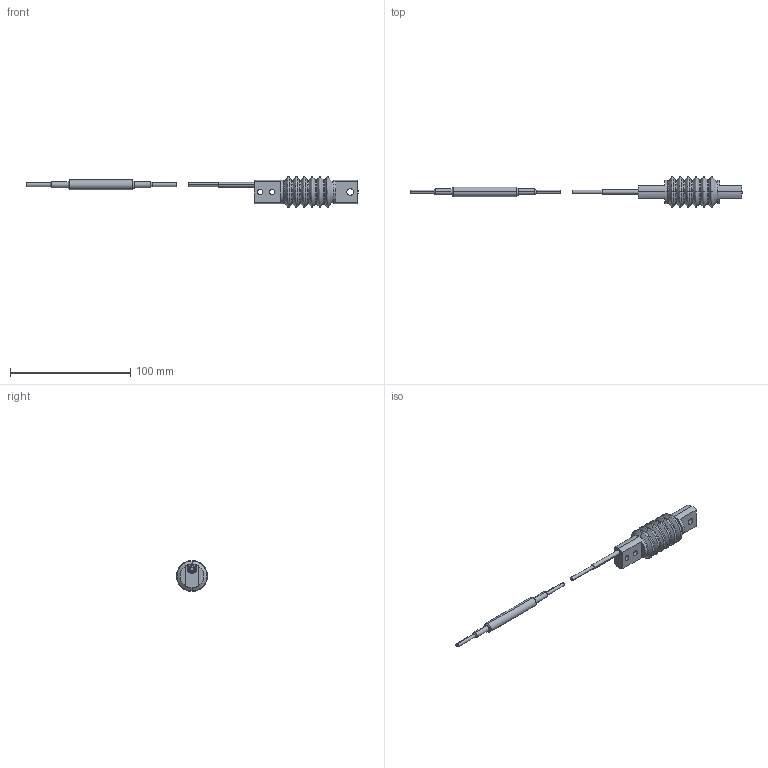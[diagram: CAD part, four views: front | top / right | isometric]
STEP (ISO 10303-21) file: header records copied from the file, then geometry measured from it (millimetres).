
FILE_DESCRIPTION(('STEP AP203'),'1');
FILE_NAME('C:/TPO v2/SharedFS/Outgoing/burster_8511-5020-v010_75tav5x2jp0diktj15eyofk8z.stp','2013-08-26T19:40:32',('TraceParts'),('TraceParts S.A.'),'XStep 1.0',' ',' ');
FILE_SCHEMA(('CONFIG_CONTROL_DESIGN'));
Length unit declared in the file: millimetre
Products named in the file (2): 1; 2
Bounding box: 276.51 x 25.78 x 25.78 mm (x, y, z)
Volume: 28790.5 mm3; surface area: 10690.4 mm2
Topology: 2 solids, 2 shells, 122 faces, 285 edges, 174 vertices
Faces by surface type: cone 36, cylinder 26, torus 22, plane 22, bspline 16
Entity records: 4773 total; most frequent: CARTESIAN_POINT 1875, DIRECTION 639, ORIENTED_EDGE 570, EDGE_CURVE 285, AXIS2_PLACEMENT_3D 276, VERTEX_POINT 174, CIRCLE 168, EDGE_LOOP 135
